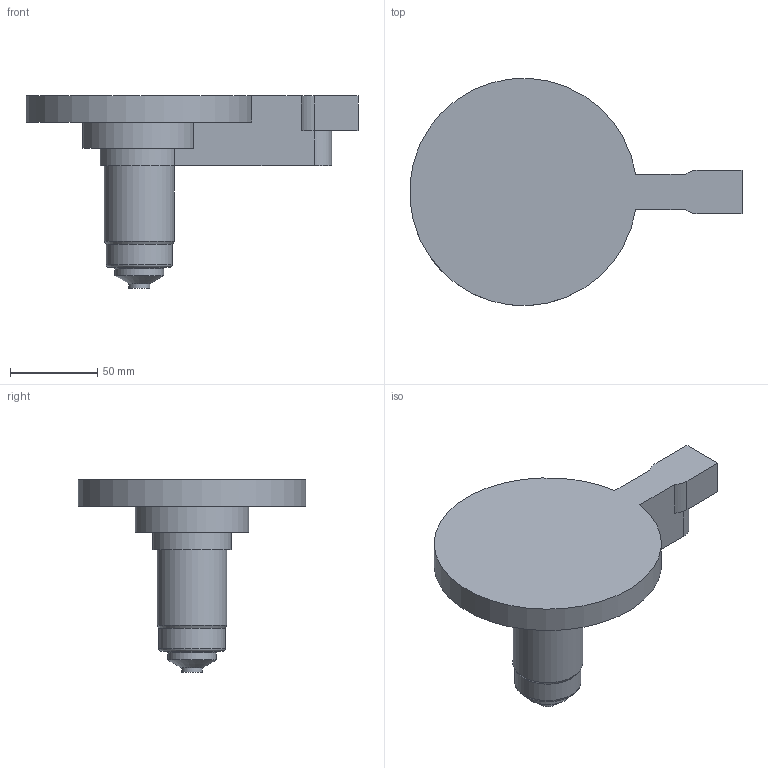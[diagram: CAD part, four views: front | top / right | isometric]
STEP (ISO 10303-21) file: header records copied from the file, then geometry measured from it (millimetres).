
FILE_DESCRIPTION( ( 'STEP AP214' ), '1' );
FILE_NAME( 'S:/PROIECTE_YUDO_2009_dupa_1.07.2009/PROIECTE YUDO 3D 01.07.2009/BLS/YUEU09-BLS25CF080_1.5/YUEU09-BLS25CF080_cutout.step', '2009-09-25T12:29:09', ( ' ' ), ( ' ' ), 'XStep 1.0', ' ', ' ' );
FILE_SCHEMA( ( 'automotive_design' ) );
Length unit declared in the file: millimetre
Products named in the file (1): 1
Bounding box: 189.76 x 129.83 x 110 mm (x, y, z)
Volume: 403540.3 mm3; surface area: 53539.1 mm2
Topology: 1 solids, 1 shells, 26 faces, 62 edges, 40 vertices
Faces by surface type: plane 12, cylinder 10, cone 3, torus 1
Full cylindrical faces by diameter (mm): 12 x1, 28 x1, 38 x1, 40 x1
Entity records: 922 total; most frequent: DIRECTION 128, CARTESIAN_POINT 117, ORIENTED_EDGE 104, EDGE_CURVE 52, AXIS2_PLACEMENT_3D 49, VERTEX_POINT 38, EDGE_LOOP 36, FACE_OUTER_BOUND 31
